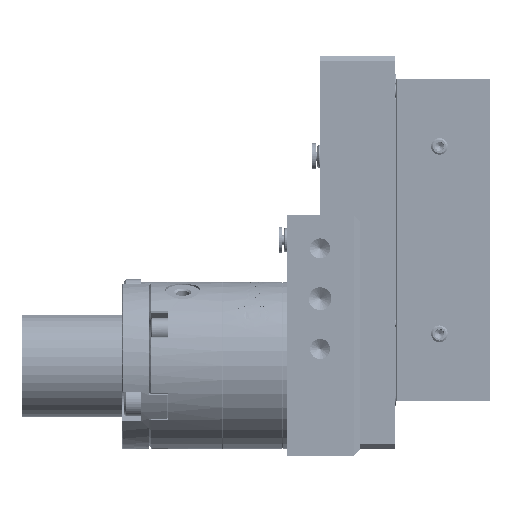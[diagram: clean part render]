
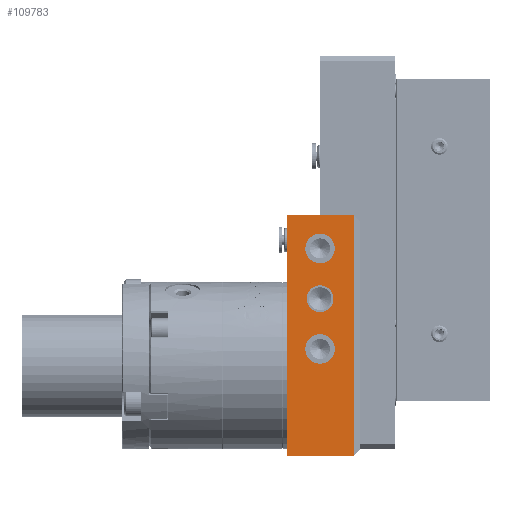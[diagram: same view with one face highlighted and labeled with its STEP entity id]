
A CAD part, left-side view. The second image highlights one B-rep face of the part: STEP entity #109783.
In plain terms, the highlighted planar face has unit normal (-1, 0, 0).
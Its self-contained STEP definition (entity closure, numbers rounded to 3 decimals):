
#5779 = LINE ( 'NONE', #284664, #365512 ) ;
#10642 = CIRCLE ( 'NONE', #59279, 4. ) ;
#13176 = EDGE_CURVE ( 'NONE', #404957, #98414, #278254, .T. ) ;
#13191 = ORIENTED_EDGE ( 'NONE', *, *, #441277, .T. ) ;
#26603 = CARTESIAN_POINT ( 'NONE',  ( -25., 12.25, 7.5 ) ) ;
#28303 = DIRECTION ( 'NONE',  ( -1., 0., 0. ) ) ;
#29177 = ORIENTED_EDGE ( 'NONE', *, *, #139964, .F. ) ;
#34931 = DIRECTION ( 'NONE',  ( 0., 1., 0. ) ) ;
#42562 = DIRECTION ( 'NONE',  ( 0., 0., -1. ) ) ;
#44088 = VERTEX_POINT ( 'NONE', #394841 ) ;
#47923 = VERTEX_POINT ( 'NONE', #302397 ) ;
#50348 = FACE_OUTER_BOUND ( 'NONE', #207238, .T. ) ;
#52952 = CIRCLE ( 'NONE', #183486, 4. ) ;
#55610 = EDGE_LOOP ( 'NONE', ( #292187, #208218 ) ) ;
#59279 = AXIS2_PLACEMENT_3D ( 'NONE', #429689, #155438, #361056 ) ;
#60751 = VERTEX_POINT ( 'NONE', #204401 ) ;
#68923 = CARTESIAN_POINT ( 'NONE',  ( -25., 12.25, 7.5 ) ) ;
#89391 = CARTESIAN_POINT ( 'NONE',  ( -25., 10.25, 7.5 ) ) ;
#92930 = VECTOR ( 'NONE', #333047, 1000. ) ;
#93758 = AXIS2_PLACEMENT_3D ( 'NONE', #450078, #241493, #314455 ) ;
#96249 = CARTESIAN_POINT ( 'NONE',  ( -25., 32.25, -37.5 ) ) ;
#98414 = VERTEX_POINT ( 'NONE', #26603 ) ;
#99792 = DIRECTION ( 'NONE',  ( -1., 0., 0. ) ) ;
#101118 = EDGE_LOOP ( 'NONE', ( #29177, #167162 ) ) ;
#102465 = VECTOR ( 'NONE', #441211, 1000. ) ;
#103006 = EDGE_CURVE ( 'NONE', #281440, #44088, #5779, .T. ) ;
#103959 = DIRECTION ( 'NONE',  ( 0., 0., 1. ) ) ;
#106540 = VERTEX_POINT ( 'NONE', #331894 ) ;
#108147 = ORIENTED_EDGE ( 'NONE', *, *, #197546, .F. ) ;
#109783 = ADVANCED_FACE ( 'NONE', ( #251810, #191942, #142949, #50348 ), #295012, .T. ) ;
#114304 = EDGE_CURVE ( 'NONE', #379086, #60751, #265507, .T. ) ;
#120245 = DIRECTION ( 'NONE',  ( 0., 0., 1. ) ) ;
#132318 = CARTESIAN_POINT ( 'NONE',  ( -25., 22.25, -21.5 ) ) ;
#132368 = EDGE_LOOP ( 'NONE', ( #108147, #336139 ) ) ;
#139964 = EDGE_CURVE ( 'NONE', #144596, #420534, #52952, .T. ) ;
#140113 = CIRCLE ( 'NONE', #93758, 4.4 ) ;
#142949 = FACE_BOUND ( 'NONE', #101118, .T. ) ;
#144596 = VERTEX_POINT ( 'NONE', #240941 ) ;
#150707 = DIRECTION ( 'NONE',  ( -1., 0., 0. ) ) ;
#155438 = DIRECTION ( 'NONE',  ( -1., 0., 0. ) ) ;
#166859 = DIRECTION ( 'NONE',  ( 0., 0., 1. ) ) ;
#167162 = ORIENTED_EDGE ( 'NONE', *, *, #373283, .F. ) ;
#183486 = AXIS2_PLACEMENT_3D ( 'NONE', #311578, #308537, #378658 ) ;
#191942 = FACE_BOUND ( 'NONE', #132368, .T. ) ;
#193371 = ORIENTED_EDGE ( 'NONE', *, *, #351336, .F. ) ;
#197546 = EDGE_CURVE ( 'NONE', #60751, #379086, #140113, .T. ) ;
#204401 = CARTESIAN_POINT ( 'NONE',  ( -25., 22.25, 1.9 ) ) ;
#205222 = CARTESIAN_POINT ( 'NONE',  ( -25., 22.25, -32.5 ) ) ;
#207238 = EDGE_LOOP ( 'NONE', ( #193371, #13191, #285800, #223800, #397950 ) ) ;
#208218 = ORIENTED_EDGE ( 'NONE', *, *, #434194, .F. ) ;
#208817 = CIRCLE ( 'NONE', #349235, 4.4 ) ;
#209172 = EDGE_CURVE ( 'NONE', #47923, #106540, #208817, .T. ) ;
#220832 = AXIS2_PLACEMENT_3D ( 'NONE', #392980, #150707, #120245 ) ;
#223800 = ORIENTED_EDGE ( 'NONE', *, *, #365919, .T. ) ;
#240941 = CARTESIAN_POINT ( 'NONE',  ( -25., 22.25, -13.5 ) ) ;
#241493 = DIRECTION ( 'NONE',  ( -1., 0., 0. ) ) ;
#251810 = FACE_BOUND ( 'NONE', #55610, .T. ) ;
#259142 = AXIS2_PLACEMENT_3D ( 'NONE', #383010, #99792, #274871 ) ;
#265507 = CIRCLE ( 'NONE', #259142, 4.4 ) ;
#274871 = DIRECTION ( 'NONE',  ( 0., 0., 1. ) ) ;
#278254 = LINE ( 'NONE', #89391, #92930 ) ;
#281440 = VERTEX_POINT ( 'NONE', #96249 ) ;
#284664 = CARTESIAN_POINT ( 'NONE',  ( -25., 32.25, -62.5 ) ) ;
#285800 = ORIENTED_EDGE ( 'NONE', *, *, #13176, .F. ) ;
#287802 = VECTOR ( 'NONE', #34931, 1000. ) ;
#289472 = VERTEX_POINT ( 'NONE', #306214 ) ;
#292187 = ORIENTED_EDGE ( 'NONE', *, *, #209172, .F. ) ;
#295012 = PLANE ( 'NONE',  #426726 ) ;
#302397 = CARTESIAN_POINT ( 'NONE',  ( -25., 22.25, -28.1 ) ) ;
#306214 = CARTESIAN_POINT ( 'NONE',  ( -25., 12.25, -64.5 ) ) ;
#308537 = DIRECTION ( 'NONE',  ( -1., 0., 0. ) ) ;
#311578 = CARTESIAN_POINT ( 'NONE',  ( -25., 22.25, -17.5 ) ) ;
#314455 = DIRECTION ( 'NONE',  ( 0., 0., 1. ) ) ;
#325863 = LINE ( 'NONE', #418752, #287802 ) ;
#331894 = CARTESIAN_POINT ( 'NONE',  ( -25., 22.25, -36.9 ) ) ;
#333047 = DIRECTION ( 'NONE',  ( 0., -1., 0. ) ) ;
#336139 = ORIENTED_EDGE ( 'NONE', *, *, #114304, .F. ) ;
#349235 = AXIS2_PLACEMENT_3D ( 'NONE', #205222, #375741, #407848 ) ;
#351336 = EDGE_CURVE ( 'NONE', #289472, #44088, #325863, .T. ) ;
#352967 = CARTESIAN_POINT ( 'NONE',  ( -25., 22.25, -6.9 ) ) ;
#361056 = DIRECTION ( 'NONE',  ( 0., 0., 1. ) ) ;
#365512 = VECTOR ( 'NONE', #42562, 1000. ) ;
#365919 = EDGE_CURVE ( 'NONE', #404957, #281440, #451242, .T. ) ;
#373283 = EDGE_CURVE ( 'NONE', #420534, #144596, #10642, .T. ) ;
#375532 = CARTESIAN_POINT ( 'NONE',  ( -25., 10.25, 0. ) ) ;
#375741 = DIRECTION ( 'NONE',  ( -1., 0., 0. ) ) ;
#378658 = DIRECTION ( 'NONE',  ( 0., 0., 1. ) ) ;
#379086 = VERTEX_POINT ( 'NONE', #352967 ) ;
#383010 = CARTESIAN_POINT ( 'NONE',  ( -25., 22.25, -2.5 ) ) ;
#384163 = CARTESIAN_POINT ( 'NONE',  ( -25., 32.25, 7.5 ) ) ;
#391916 = VECTOR ( 'NONE', #103959, 1000. ) ;
#392980 = CARTESIAN_POINT ( 'NONE',  ( -25., 22.25, -32.5 ) ) ;
#394841 = CARTESIAN_POINT ( 'NONE',  ( -25., 32.25, -64.5 ) ) ;
#397950 = ORIENTED_EDGE ( 'NONE', *, *, #103006, .T. ) ;
#404957 = VERTEX_POINT ( 'NONE', #384163 ) ;
#407848 = DIRECTION ( 'NONE',  ( 0., 0., 1. ) ) ;
#418752 = CARTESIAN_POINT ( 'NONE',  ( -25., 32.25, -64.5 ) ) ;
#420534 = VERTEX_POINT ( 'NONE', #132318 ) ;
#426726 = AXIS2_PLACEMENT_3D ( 'NONE', #375532, #28303, #166859 ) ;
#429689 = CARTESIAN_POINT ( 'NONE',  ( -25., 22.25, -17.5 ) ) ;
#429901 = LINE ( 'NONE', #68923, #391916 ) ;
#434194 = EDGE_CURVE ( 'NONE', #106540, #47923, #442135, .T. ) ;
#441211 = DIRECTION ( 'NONE',  ( 0., 0., -1. ) ) ;
#441277 = EDGE_CURVE ( 'NONE', #289472, #98414, #429901, .T. ) ;
#442135 = CIRCLE ( 'NONE', #220832, 4.4 ) ;
#444192 = CARTESIAN_POINT ( 'NONE',  ( -25., 32.25, -62.5 ) ) ;
#450078 = CARTESIAN_POINT ( 'NONE',  ( -25., 22.25, -2.5 ) ) ;
#451242 = LINE ( 'NONE', #444192, #102465 ) ;
